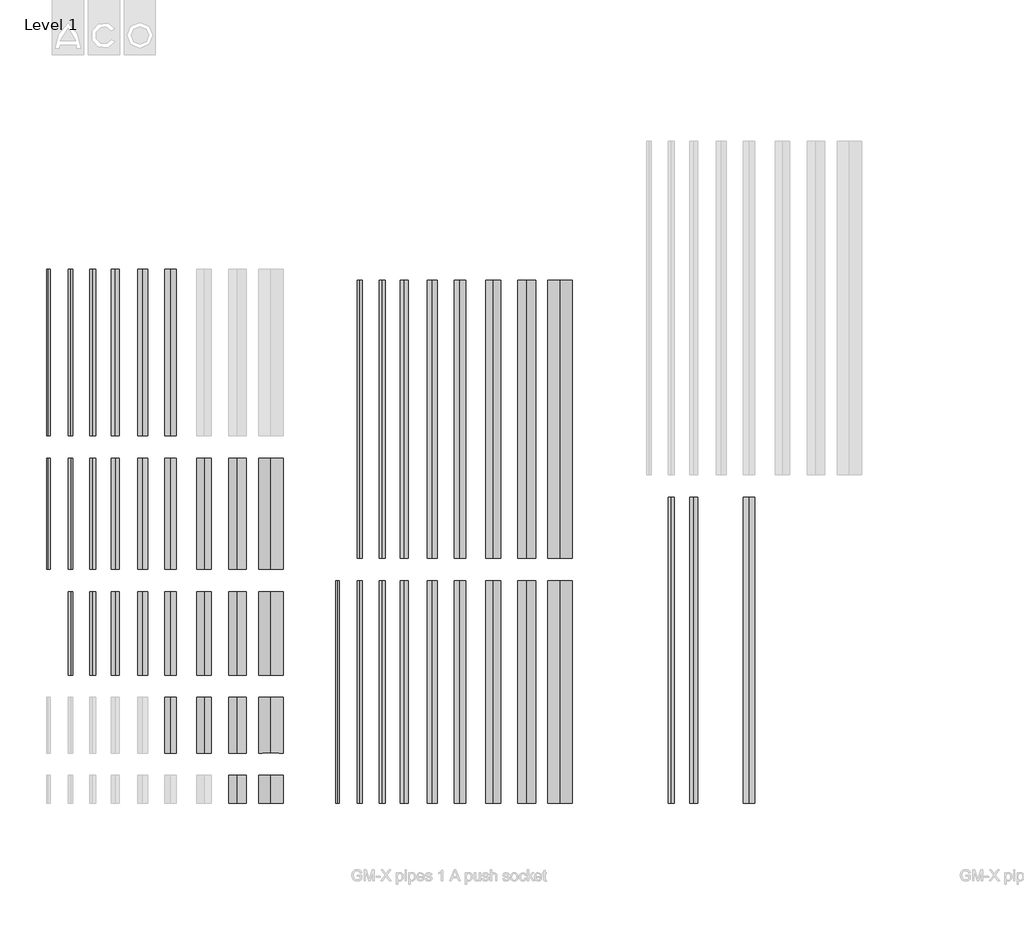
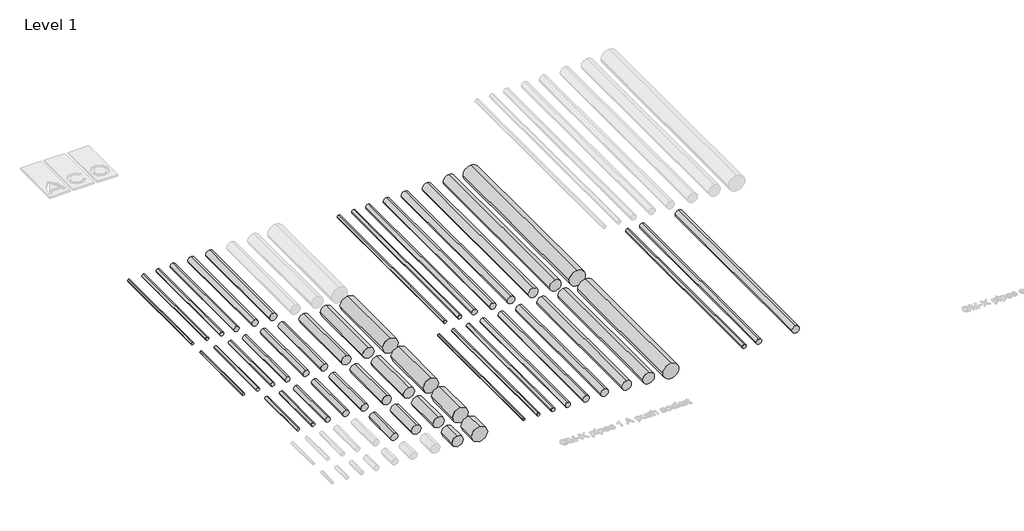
# One storey, part 4 of 8: 49 pipe segments.
"""IFC4 building model written with IfcOpenShell, lengths in millimetres."""

import ifcopenshell
import ifcopenshell.guid

model = None  # the IFC model being written
_history = None  # IfcOwnerHistory: only IFC2X3 demands one
_inside = {}  # id of a spatial element -> (the spatial element, [elements in it])
_under = {}  # id of a project, library or spatial element -> (it, [spatial elements below it])
_declared = {}  # id of a project -> (the project, [libraries it declares])
_typed = {}  # id of a type object -> (the type object, [elements of that type])
_made_of = {}  # id of a material, layer set ... -> (it, [elements and type objects made of it])


def new_model(schema):
    """Start an empty IFC model of exactly this schema.

    Asked for "IFC4X3", IfcOpenShell would pick the latest addendum, in which some entities
    have other attributes; the version numbers below select the first issue.
    IFC2X3 requires an IfcOwnerHistory on every rooted entity: one is made here for all.
    """
    global model, _history
    if schema == "IFC4X3":
        model = ifcopenshell.file(schema_version=(4, 3, 0, 0))
    else:
        model = ifcopenshell.file(schema=schema)
    _inside.clear()
    _under.clear()
    _declared.clear()
    _typed.clear()
    _made_of.clear()
    _history = None
    if model.schema == "IFC2X3":
        org = make("IfcOrganization", Name="unknown")
        user = make(
            "IfcPersonAndOrganization",
            ThePerson=make("IfcPerson", FamilyName="unknown"),
            TheOrganization=org,
        )
        app = make(
            "IfcApplication",
            ApplicationDeveloper=org,
            Version="unknown",
            ApplicationFullName="unknown",
            ApplicationIdentifier="unknown",
        )
        _history = make(
            "IfcOwnerHistory",
            OwningUser=user,
            OwningApplication=app,
            ChangeAction="ADDED",
            CreationDate=0,
        )
    return model


def make(cls, **values):
    """One entity of the class cls with the attributes given. An attribute that is None is left unset."""
    return model.create_entity(
        cls, **{name: value for name, value in values.items() if value is not None}
    )


def rooted(cls, **values):
    """An entity with a GlobalId (a new one), such as an element, a storey or a relation."""
    return make(cls, GlobalId=ifcopenshell.guid.new(), OwnerHistory=_history, **values)


def si_unit(unit_type, name, prefix=None):
    """IfcSIUnit, for example si_unit("LENGTHUNIT", "METRE", prefix="MILLI")."""
    return make("IfcSIUnit", UnitType=unit_type, Prefix=prefix, Name=name)


def assignment(units):
    """IfcUnitAssignment: the units of a project."""
    return None if units is None else make("IfcUnitAssignment", Units=units)


def point(xyz):
    """IfcCartesianPoint."""
    return None if xyz is None else make("IfcCartesianPoint", Coordinates=xyz)


def direction(xyz):
    """IfcDirection."""
    return None if xyz is None else make("IfcDirection", DirectionRatios=xyz)


def frame(location, z_axis=None, x_axis=None):
    """IfcAxis2Placement3D, a coordinate frame: its origin and axes. An axis left out is left unset."""
    return make(
        "IfcAxis2Placement3D",
        Location=point(location),
        Axis=direction(z_axis),
        RefDirection=direction(x_axis),
    )


def frame_2d(location, x_axis=None):
    """IfcAxis2Placement2D, a coordinate frame in the plane: its origin and x axis."""
    return make(
        "IfcAxis2Placement2D", Location=point(location), RefDirection=direction(x_axis)
    )


def origin():
    """The frame at (0, 0, 0) with its axes left unset."""
    return frame((0.0, 0.0, 0.0))


def place(relative_to, where):
    """IfcLocalPlacement: puts the frame where relative to a parent placement (None: the world)."""
    return make(
        "IfcLocalPlacement", PlacementRelTo=relative_to, RelativePlacement=where
    )


def context(
    kind, dimensions, precision=None, world=None, true_north=None, identifier=None
):
    """IfcGeometricRepresentationContext, for example the 3D "Model" context."""
    return make(
        "IfcGeometricRepresentationContext",
        ContextIdentifier=identifier,
        ContextType=kind,
        CoordinateSpaceDimension=dimensions,
        Precision=precision,
        WorldCoordinateSystem=world,
        TrueNorth=true_north,
    )


def project(units=None, contexts=None):
    """IfcProject with its units and contexts."""
    return rooted(
        "IfcProject",
        Name="project",
        RepresentationContexts=contexts,
        UnitsInContext=assignment(units),
    )


def spatial(cls, under=None, at=None, **own):
    """A site, building, storey or space (cls), placed at a placement, below another one or the project."""
    s = rooted(cls, ObjectPlacement=at, **own)
    if under is not None:
        _under.setdefault(under.id(), (under, []))[1].append(s)
    return s


def circle_curve(where, radius):
    """IfcCircle in the frame where."""
    return make("IfcCircle", Position=where, Radius=radius)


def trimmed(basis, trim1, trim2, sense, master):
    """IfcTrimmedCurve: the piece of a basis curve between two trims."""
    return make(
        "IfcTrimmedCurve",
        BasisCurve=basis,
        Trim1=trim1,
        Trim2=trim2,
        SenseAgreement=sense,
        MasterRepresentation=master,
    )


def segment(curve, same_sense, transition):
    """IfcCompositeCurveSegment."""
    return make(
        "IfcCompositeCurveSegment",
        Transition=transition,
        SameSense=same_sense,
        ParentCurve=curve,
    )


def composite_curve(segments, self_intersect=None):
    """IfcCompositeCurve: segments joined end to end."""
    return make("IfcCompositeCurve", Segments=segments, SelfIntersect=self_intersect)


def outline(outer, holes=None, kind="AREA"):
    """IfcArbitraryClosedProfileDef: a profile drawn as a closed curve; with holes, ...WithVoids."""
    if holes is None:
        return make("IfcArbitraryClosedProfileDef", ProfileType=kind, OuterCurve=outer)
    return make(
        "IfcArbitraryProfileDefWithVoids",
        ProfileType=kind,
        OuterCurve=outer,
        InnerCurves=holes,
    )


def extrude(swept, where, along, depth):
    """IfcExtrudedAreaSolid: the profile swept, set in the frame where, extruded along a direction by depth."""
    return make(
        "IfcExtrudedAreaSolid",
        SweptArea=swept,
        Position=where,
        ExtrudedDirection=direction(along),
        Depth=depth,
    )


def shape(context_of_items, identifier, shape_type, items):
    """IfcShapeRepresentation: the items that make up one representation, for example the "Body"."""
    return make(
        "IfcShapeRepresentation",
        ContextOfItems=context_of_items,
        RepresentationIdentifier=identifier,
        RepresentationType=shape_type,
        Items=items,
    )


def made_of(thing, what):
    """Note that an element or type object is made of a material, layer set ...; save() writes the relation."""
    if what is not None:
        _made_of.setdefault(what.id(), (what, []))[1].append(thing)
    return thing


def element(
    cls,
    number,
    at=None,
    inside=None,
    cuts=None,
    type_object=None,
    material=None,
    context=None,
    identifier="Body",
    shape_type=None,
    held_by="IfcProductDefinitionShape",
    body=None,
    shapes=None,
    **own,
):
    """One element of the class cls, such as IfcWall. Its Tag is "e" and its number.

    at: its placement. inside: the storey or other place that contains it. cuts: it is an
    opening in that element (IfcRelVoidsElement). A single representation is given by context,
    identifier, shape_type and body (its items); several are given by shapes. held_by: the class
    of the entity that holds the representations. save() writes the other relations.
    """
    e = rooted(cls, Tag="e%d" % number, ObjectPlacement=at, **own)
    if body is not None:
        shapes = [shape(context, identifier, shape_type, body)]
    if shapes is not None:
        e.Representation = make(held_by, Representations=shapes)
    if inside is not None:
        _inside.setdefault(inside.id(), (inside, []))[1].append(e)
    if cuts is not None:
        rooted(
            "IfcRelVoidsElement", RelatingBuildingElement=cuts, RelatedOpeningElement=e
        )
    if type_object is not None:
        _typed.setdefault(type_object.id(), (type_object, []))[1].append(e)
    return made_of(e, material)


def aggregate(whole, parts):
    """IfcRelAggregates: a whole, such as a stair, and the parts it consists of."""
    return rooted("IfcRelAggregates", RelatingObject=whole, RelatedObjects=parts)


def save(model, path):
    """Write the relations noted so far, then the file.

    IfcRelAggregates (storeys below a building ...), IfcRelContainedInSpatialStructure (elements
    in a storey), IfcRelDefinesByType, IfcRelAssociatesMaterial and IfcRelDeclares: one each for
    every whole, place, type object, material and project.
    """
    for whole, parts in _under.values():
        aggregate(whole, parts)
    for where, things in _inside.values():
        rooted(
            "IfcRelContainedInSpatialStructure",
            RelatedElements=things,
            RelatingStructure=where,
        )
    for kind, things in _typed.values():
        rooted("IfcRelDefinesByType", RelatedObjects=things, RelatingType=kind)
    for what, things in _made_of.values():
        rooted("IfcRelAssociatesMaterial", RelatedObjects=things, RelatingMaterial=what)
    for by, libraries in _declared.values():
        rooted("IfcRelDeclares", RelatingContext=by, RelatedDefinitions=libraries)
    model.write(path)


model = new_model("IFC4")

# Units and contexts
model_context = context("Model", 3, world=origin())
ifc_project = project(units=[si_unit("LENGTHUNIT", "METRE", prefix="MILLI")], contexts=[model_context])

# Site, building, storey
site = spatial("IfcSite", under=ifc_project)
building = spatial("IfcBuilding", under=site)
storey = spatial("IfcBuildingStorey", under=building, Name="Level 1", Elevation=0.0)

# Pipe segments
placement = place(None, origin())
element("IfcPipeSegment", 1, ObjectType="GM-X pipe complex", at=placement, inside=storey, context=model_context, shape_type="SweptSolid", body=[
    extrude(outline(composite_curve([segment(trimmed(circle_curve(frame_2d((0.0, 2200.0)), 79.5), [point((0.0, 2279.5))], [point((79.5, 2200.0))], False, "CARTESIAN"), True, "CONTINUOUS"), segment(trimmed(circle_curve(frame_2d((0.0, 2200.0)), 79.5), [point((79.5, 2200.0))], [point((0.0, 2120.5))], False, "CARTESIAN"), True, "CONTINUOUS"), segment(trimmed(circle_curve(frame_2d((0.0, 2200.0)), 79.5), [point((0.0, 2120.5))], [point((-79.5, 2200.0))], False, "CARTESIAN"), True, "CONTINUOUS"), segment(trimmed(circle_curve(frame_2d((0.0, 2200.0)), 79.5), [point((-79.5, 2200.0))], [point((0.0, 2279.5))], False, "CARTESIAN"), True, "CONTINUOUS")], self_intersect=False)), frame((0.0, 0.0, 0.0), z_axis=(0.0, 1.0, 0.0), x_axis=(0.0, 0.0, 1.0)), (0.0, 0.0, 1.0), 250.0),
])
element("IfcPipeSegment", 2, ObjectType="GM-X pipe complex", at=placement, inside=storey, context=model_context, shape_type="SweptSolid", body=[
    extrude(outline(composite_curve([segment(trimmed(circle_curve(frame_2d((0.0, 2500.0)), 109.5), [point((0.0, 2609.5))], [point((109.5, 2500.0))], False, "CARTESIAN"), True, "CONTINUOUS"), segment(trimmed(circle_curve(frame_2d((0.0, 2500.0)), 109.5), [point((109.5, 2500.0))], [point((0.0, 2390.5))], False, "CARTESIAN"), True, "CONTINUOUS"), segment(trimmed(circle_curve(frame_2d((0.0, 2500.0)), 109.5), [point((0.0, 2390.5))], [point((-109.5, 2500.0))], False, "CARTESIAN"), True, "CONTINUOUS"), segment(trimmed(circle_curve(frame_2d((0.0, 2500.0)), 109.5), [point((-109.5, 2500.0))], [point((0.0, 2609.5))], False, "CARTESIAN"), True, "CONTINUOUS")], self_intersect=False)), frame((0.0, 0.0, 0.0), z_axis=(0.0, 1.0, 0.0), x_axis=(0.0, 0.0, 1.0)), (0.0, 0.0, 1.0), 250.0),
])
element("IfcPipeSegment", 3, ObjectType="GM-X pipe complex", at=placement, inside=storey, context=model_context, shape_type="SweptSolid", body=[
    extrude(outline(composite_curve([segment(trimmed(circle_curve(frame_2d((0.0, 1600.0)), 51.5), [point((0.0, 1651.5))], [point((51.5, 1600.0))], False, "CARTESIAN"), True, "CONTINUOUS"), segment(trimmed(circle_curve(frame_2d((0.0, 1600.0)), 51.5), [point((51.5, 1600.0))], [point((0.0, 1548.5))], False, "CARTESIAN"), True, "CONTINUOUS"), segment(trimmed(circle_curve(frame_2d((0.0, 1600.0)), 51.5), [point((0.0, 1548.5))], [point((-51.5, 1600.0))], False, "CARTESIAN"), True, "CONTINUOUS"), segment(trimmed(circle_curve(frame_2d((0.0, 1600.0)), 51.5), [point((-51.5, 1600.0))], [point((0.0, 1651.5))], False, "CARTESIAN"), True, "CONTINUOUS")], self_intersect=False)), frame((0.0, 450.0, 0.0), z_axis=(0.0, 1.0, 0.0), x_axis=(0.0, 0.0, 1.0)), (0.0, 0.0, 1.0), 500.0),
])
element("IfcPipeSegment", 4, ObjectType="GM-X pipe complex", at=placement, inside=storey, context=model_context, shape_type="SweptSolid", body=[
    extrude(outline(composite_curve([segment(trimmed(circle_curve(frame_2d((0.0, 1900.0)), 66.5), [point((0.0, 1966.5))], [point((66.5, 1900.0))], False, "CARTESIAN"), True, "CONTINUOUS"), segment(trimmed(circle_curve(frame_2d((0.0, 1900.0)), 66.5), [point((66.5, 1900.0))], [point((0.0, 1833.5))], False, "CARTESIAN"), True, "CONTINUOUS"), segment(trimmed(circle_curve(frame_2d((0.0, 1900.0)), 66.5), [point((0.0, 1833.5))], [point((-66.5, 1900.0))], False, "CARTESIAN"), True, "CONTINUOUS"), segment(trimmed(circle_curve(frame_2d((0.0, 1900.0)), 66.5), [point((-66.5, 1900.0))], [point((0.0, 1966.5))], False, "CARTESIAN"), True, "CONTINUOUS")], self_intersect=False)), frame((0.0, 450.0, 0.0), z_axis=(0.0, 1.0, 0.0), x_axis=(0.0, 0.0, 1.0)), (0.0, 0.0, 1.0), 500.0),
])
element("IfcPipeSegment", 5, ObjectType="GM-X pipe complex", at=placement, inside=storey, context=model_context, shape_type="SweptSolid", body=[
    extrude(outline(composite_curve([segment(trimmed(circle_curve(frame_2d((0.0, 2200.0)), 79.5), [point((0.0, 2279.5))], [point((79.5, 2200.0))], False, "CARTESIAN"), True, "CONTINUOUS"), segment(trimmed(circle_curve(frame_2d((0.0, 2200.0)), 79.5), [point((79.5, 2200.0))], [point((0.0, 2120.5))], False, "CARTESIAN"), True, "CONTINUOUS"), segment(trimmed(circle_curve(frame_2d((0.0, 2200.0)), 79.5), [point((0.0, 2120.5))], [point((-79.5, 2200.0))], False, "CARTESIAN"), True, "CONTINUOUS"), segment(trimmed(circle_curve(frame_2d((0.0, 2200.0)), 79.5), [point((-79.5, 2200.0))], [point((0.0, 2279.5))], False, "CARTESIAN"), True, "CONTINUOUS")], self_intersect=False)), frame((0.0, 450.0, 0.0), z_axis=(0.0, 1.0, 0.0), x_axis=(0.0, 0.0, 1.0)), (0.0, 0.0, 1.0), 500.0),
])
element("IfcPipeSegment", 6, ObjectType="GM-X pipe complex", at=placement, inside=storey, context=model_context, shape_type="SweptSolid", body=[
    extrude(outline(composite_curve([segment(trimmed(circle_curve(frame_2d((0.0, 2500.0)), 109.5), [point((0.0, 2609.5))], [point((109.5, 2500.0))], False, "CARTESIAN"), True, "CONTINUOUS"), segment(trimmed(circle_curve(frame_2d((0.0, 2500.0)), 109.5), [point((109.5, 2500.0))], [point((0.0, 2390.5))], False, "CARTESIAN"), True, "CONTINUOUS"), segment(trimmed(circle_curve(frame_2d((0.0, 2500.0)), 109.5), [point((0.0, 2390.5))], [point((-109.5, 2500.0))], False, "CARTESIAN"), True, "CONTINUOUS"), segment(trimmed(circle_curve(frame_2d((0.0, 2500.0)), 109.5), [point((-109.5, 2500.0))], [point((0.0, 2609.5))], False, "CARTESIAN"), True, "CONTINUOUS")], self_intersect=False)), frame((0.0, 450.0, 0.0), z_axis=(0.0, 1.0, 0.0), x_axis=(0.0, 0.0, 1.0)), (0.0, 0.0, 1.0), 500.0),
])
element("IfcPipeSegment", 7, ObjectType="GM-X pipe complex", at=placement, inside=storey, context=model_context, shape_type="SweptSolid", body=[
    extrude(outline(composite_curve([segment(trimmed(circle_curve(frame_2d((0.0, 700.0)), 21.5), [point((0.0, 721.5))], [point((21.5, 700.0))], False, "CARTESIAN"), True, "CONTINUOUS"), segment(trimmed(circle_curve(frame_2d((0.0, 700.0)), 21.5), [point((21.5, 700.0))], [point((0.0, 678.5))], False, "CARTESIAN"), True, "CONTINUOUS"), segment(trimmed(circle_curve(frame_2d((0.0, 700.0)), 21.5), [point((0.0, 678.5))], [point((-21.5, 700.0))], False, "CARTESIAN"), True, "CONTINUOUS"), segment(trimmed(circle_curve(frame_2d((0.0, 700.0)), 21.5), [point((-21.5, 700.0))], [point((0.0, 721.5))], False, "CARTESIAN"), True, "CONTINUOUS")], self_intersect=False)), frame((0.0, 1150.0, 0.0), z_axis=(0.0, 1.0, 0.0), x_axis=(0.0, 0.0, 1.0)), (0.0, 0.0, 1.0), 750.0),
])
element("IfcPipeSegment", 8, ObjectType="GM-X pipe complex", at=placement, inside=storey, context=model_context, shape_type="SweptSolid", body=[
    extrude(outline(composite_curve([segment(trimmed(circle_curve(frame_2d((0.0, 900.0)), 26.5), [point((0.0, 926.5))], [point((26.5, 900.0))], False, "CARTESIAN"), True, "CONTINUOUS"), segment(trimmed(circle_curve(frame_2d((0.0, 900.0)), 26.5), [point((26.5, 900.0))], [point((0.0, 873.5))], False, "CARTESIAN"), True, "CONTINUOUS"), segment(trimmed(circle_curve(frame_2d((0.0, 900.0)), 26.5), [point((0.0, 873.5))], [point((-26.5, 900.0))], False, "CARTESIAN"), True, "CONTINUOUS"), segment(trimmed(circle_curve(frame_2d((0.0, 900.0)), 26.5), [point((-26.5, 900.0))], [point((0.0, 926.5))], False, "CARTESIAN"), True, "CONTINUOUS")], self_intersect=False)), frame((0.0, 1150.0, 0.0), z_axis=(0.0, 1.0, 0.0), x_axis=(0.0, 0.0, 1.0)), (0.0, 0.0, 1.0), 750.0),
])
element("IfcPipeSegment", 9, ObjectType="GM-X pipe complex", at=placement, inside=storey, context=model_context, shape_type="SweptSolid", body=[
    extrude(outline(composite_curve([segment(trimmed(circle_curve(frame_2d((0.0, 1100.0)), 36.5), [point((0.0, 1136.5))], [point((36.5, 1100.0))], False, "CARTESIAN"), True, "CONTINUOUS"), segment(trimmed(circle_curve(frame_2d((0.0, 1100.0)), 36.5), [point((36.5, 1100.0))], [point((0.0, 1063.5))], False, "CARTESIAN"), True, "CONTINUOUS"), segment(trimmed(circle_curve(frame_2d((0.0, 1100.0)), 36.5), [point((0.0, 1063.5))], [point((-36.5, 1100.0))], False, "CARTESIAN"), True, "CONTINUOUS"), segment(trimmed(circle_curve(frame_2d((0.0, 1100.0)), 36.5), [point((-36.5, 1100.0))], [point((0.0, 1136.5))], False, "CARTESIAN"), True, "CONTINUOUS")], self_intersect=False)), frame((0.0, 1150.0, 0.0), z_axis=(0.0, 1.0, 0.0), x_axis=(0.0, 0.0, 1.0)), (0.0, 0.0, 1.0), 750.0),
])
element("IfcPipeSegment", 10, ObjectType="GM-X pipe complex", at=placement, inside=storey, context=model_context, shape_type="SweptSolid", body=[
    extrude(outline(composite_curve([segment(trimmed(circle_curve(frame_2d((0.0, 1350.0)), 44.5), [point((0.0, 1394.5))], [point((44.5, 1350.0))], False, "CARTESIAN"), True, "CONTINUOUS"), segment(trimmed(circle_curve(frame_2d((0.0, 1350.0)), 44.5), [point((44.5, 1350.0))], [point((0.0, 1305.5))], False, "CARTESIAN"), True, "CONTINUOUS"), segment(trimmed(circle_curve(frame_2d((0.0, 1350.0)), 44.5), [point((0.0, 1305.5))], [point((-44.5, 1350.0))], False, "CARTESIAN"), True, "CONTINUOUS"), segment(trimmed(circle_curve(frame_2d((0.0, 1350.0)), 44.5), [point((-44.5, 1350.0))], [point((0.0, 1394.5))], False, "CARTESIAN"), True, "CONTINUOUS")], self_intersect=False)), frame((0.0, 1150.0, 0.0), z_axis=(0.0, 1.0, 0.0), x_axis=(0.0, 0.0, 1.0)), (0.0, 0.0, 1.0), 750.0),
])
element("IfcPipeSegment", 11, ObjectType="GM-X pipe complex", at=placement, inside=storey, context=model_context, shape_type="SweptSolid", body=[
    extrude(outline(composite_curve([segment(trimmed(circle_curve(frame_2d((0.0, 1600.0)), 51.5), [point((0.0, 1651.5))], [point((51.5, 1600.0))], False, "CARTESIAN"), True, "CONTINUOUS"), segment(trimmed(circle_curve(frame_2d((0.0, 1600.0)), 51.5), [point((51.5, 1600.0))], [point((0.0, 1548.5))], False, "CARTESIAN"), True, "CONTINUOUS"), segment(trimmed(circle_curve(frame_2d((0.0, 1600.0)), 51.5), [point((0.0, 1548.5))], [point((-51.5, 1600.0))], False, "CARTESIAN"), True, "CONTINUOUS"), segment(trimmed(circle_curve(frame_2d((0.0, 1600.0)), 51.5), [point((-51.5, 1600.0))], [point((0.0, 1651.5))], False, "CARTESIAN"), True, "CONTINUOUS")], self_intersect=False)), frame((0.0, 1150.0, 0.0), z_axis=(0.0, 1.0, 0.0), x_axis=(0.0, 0.0, 1.0)), (0.0, 0.0, 1.0), 750.0),
])
element("IfcPipeSegment", 12, ObjectType="GM-X pipe complex", at=placement, inside=storey, context=model_context, shape_type="SweptSolid", body=[
    extrude(outline(composite_curve([segment(trimmed(circle_curve(frame_2d((0.0, 1900.0)), 66.5), [point((0.0, 1966.5))], [point((66.5, 1900.0))], False, "CARTESIAN"), True, "CONTINUOUS"), segment(trimmed(circle_curve(frame_2d((0.0, 1900.0)), 66.5), [point((66.5, 1900.0))], [point((0.0, 1833.5))], False, "CARTESIAN"), True, "CONTINUOUS"), segment(trimmed(circle_curve(frame_2d((0.0, 1900.0)), 66.5), [point((0.0, 1833.5))], [point((-66.5, 1900.0))], False, "CARTESIAN"), True, "CONTINUOUS"), segment(trimmed(circle_curve(frame_2d((0.0, 1900.0)), 66.5), [point((-66.5, 1900.0))], [point((0.0, 1966.5))], False, "CARTESIAN"), True, "CONTINUOUS")], self_intersect=False)), frame((0.0, 1150.0, 0.0), z_axis=(0.0, 1.0, 0.0), x_axis=(0.0, 0.0, 1.0)), (0.0, 0.0, 1.0), 750.0),
])
element("IfcPipeSegment", 13, ObjectType="GM-X pipe complex", at=placement, inside=storey, context=model_context, shape_type="SweptSolid", body=[
    extrude(outline(composite_curve([segment(trimmed(circle_curve(frame_2d((0.0, 2200.0)), 79.5), [point((0.0, 2279.5))], [point((79.5, 2200.0))], False, "CARTESIAN"), True, "CONTINUOUS"), segment(trimmed(circle_curve(frame_2d((0.0, 2200.0)), 79.5), [point((79.5, 2200.0))], [point((0.0, 2120.5))], False, "CARTESIAN"), True, "CONTINUOUS"), segment(trimmed(circle_curve(frame_2d((0.0, 2200.0)), 79.5), [point((0.0, 2120.5))], [point((-79.5, 2200.0))], False, "CARTESIAN"), True, "CONTINUOUS"), segment(trimmed(circle_curve(frame_2d((0.0, 2200.0)), 79.5), [point((-79.5, 2200.0))], [point((0.0, 2279.5))], False, "CARTESIAN"), True, "CONTINUOUS")], self_intersect=False)), frame((0.0, 1150.0, 0.0), z_axis=(0.0, 1.0, 0.0), x_axis=(0.0, 0.0, 1.0)), (0.0, 0.0, 1.0), 750.0),
])
element("IfcPipeSegment", 14, ObjectType="GM-X pipe complex", at=placement, inside=storey, context=model_context, shape_type="SweptSolid", body=[
    extrude(outline(composite_curve([segment(trimmed(circle_curve(frame_2d((0.0, 2500.0)), 109.5), [point((0.0, 2609.5))], [point((109.5, 2500.0))], False, "CARTESIAN"), True, "CONTINUOUS"), segment(trimmed(circle_curve(frame_2d((0.0, 2500.0)), 109.5), [point((109.5, 2500.0))], [point((0.0, 2390.5))], False, "CARTESIAN"), True, "CONTINUOUS"), segment(trimmed(circle_curve(frame_2d((0.0, 2500.0)), 109.5), [point((0.0, 2390.5))], [point((-109.5, 2500.0))], False, "CARTESIAN"), True, "CONTINUOUS"), segment(trimmed(circle_curve(frame_2d((0.0, 2500.0)), 109.5), [point((-109.5, 2500.0))], [point((0.0, 2609.5))], False, "CARTESIAN"), True, "CONTINUOUS")], self_intersect=False)), frame((0.0, 1150.0, 0.0), z_axis=(0.0, 1.0, 0.0), x_axis=(0.0, 0.0, 1.0)), (0.0, 0.0, 1.0), 750.0),
])
element("IfcPipeSegment", 15, ObjectType="GM-X pipe complex", at=placement, inside=storey, context=model_context, shape_type="SweptSolid", body=[
    extrude(outline(composite_curve([segment(trimmed(circle_curve(frame_2d((0.0, 700.0)), 21.5), [point((0.0, 721.5))], [point((21.5, 700.0))], False, "CARTESIAN"), True, "CONTINUOUS"), segment(trimmed(circle_curve(frame_2d((0.0, 700.0)), 21.5), [point((21.5, 700.0))], [point((0.0, 678.5))], False, "CARTESIAN"), True, "CONTINUOUS"), segment(trimmed(circle_curve(frame_2d((0.0, 700.0)), 21.5), [point((0.0, 678.5))], [point((-21.5, 700.0))], False, "CARTESIAN"), True, "CONTINUOUS"), segment(trimmed(circle_curve(frame_2d((0.0, 700.0)), 21.5), [point((-21.5, 700.0))], [point((0.0, 721.5))], False, "CARTESIAN"), True, "CONTINUOUS")], self_intersect=False)), frame((0.0, 2100.0, 0.0), z_axis=(0.0, 1.0, 0.0), x_axis=(0.0, 0.0, 1.0)), (0.0, 0.0, 1.0), 1000.0),
])
element("IfcPipeSegment", 16, ObjectType="GM-X pipe complex", at=placement, inside=storey, context=model_context, shape_type="SweptSolid", body=[
    extrude(outline(composite_curve([segment(trimmed(circle_curve(frame_2d((0.0, 900.0)), 26.5), [point((0.0, 926.5))], [point((26.5, 900.0))], False, "CARTESIAN"), True, "CONTINUOUS"), segment(trimmed(circle_curve(frame_2d((0.0, 900.0)), 26.5), [point((26.5, 900.0))], [point((0.0, 873.5))], False, "CARTESIAN"), True, "CONTINUOUS"), segment(trimmed(circle_curve(frame_2d((0.0, 900.0)), 26.5), [point((0.0, 873.5))], [point((-26.5, 900.0))], False, "CARTESIAN"), True, "CONTINUOUS"), segment(trimmed(circle_curve(frame_2d((0.0, 900.0)), 26.5), [point((-26.5, 900.0))], [point((0.0, 926.5))], False, "CARTESIAN"), True, "CONTINUOUS")], self_intersect=False)), frame((0.0, 2100.0, 0.0), z_axis=(0.0, 1.0, 0.0), x_axis=(0.0, 0.0, 1.0)), (0.0, 0.0, 1.0), 1000.0),
])
element("IfcPipeSegment", 17, ObjectType="GM-X pipe complex", at=placement, inside=storey, context=model_context, shape_type="SweptSolid", body=[
    extrude(outline(composite_curve([segment(trimmed(circle_curve(frame_2d((0.0, 1100.0)), 36.5), [point((0.0, 1136.5))], [point((36.5, 1100.0))], False, "CARTESIAN"), True, "CONTINUOUS"), segment(trimmed(circle_curve(frame_2d((0.0, 1100.0)), 36.5), [point((36.5, 1100.0))], [point((0.0, 1063.5))], False, "CARTESIAN"), True, "CONTINUOUS"), segment(trimmed(circle_curve(frame_2d((0.0, 1100.0)), 36.5), [point((0.0, 1063.5))], [point((-36.5, 1100.0))], False, "CARTESIAN"), True, "CONTINUOUS"), segment(trimmed(circle_curve(frame_2d((0.0, 1100.0)), 36.5), [point((-36.5, 1100.0))], [point((0.0, 1136.5))], False, "CARTESIAN"), True, "CONTINUOUS")], self_intersect=False)), frame((0.0, 2100.0, 0.0), z_axis=(0.0, 1.0, 0.0), x_axis=(0.0, 0.0, 1.0)), (0.0, 0.0, 1.0), 1000.0),
])
element("IfcPipeSegment", 18, ObjectType="GM-X pipe complex", at=placement, inside=storey, context=model_context, shape_type="SweptSolid", body=[
    extrude(outline(composite_curve([segment(trimmed(circle_curve(frame_2d((0.0, 1350.0)), 44.5), [point((0.0, 1394.5))], [point((44.5, 1350.0))], False, "CARTESIAN"), True, "CONTINUOUS"), segment(trimmed(circle_curve(frame_2d((0.0, 1350.0)), 44.5), [point((44.5, 1350.0))], [point((0.0, 1305.5))], False, "CARTESIAN"), True, "CONTINUOUS"), segment(trimmed(circle_curve(frame_2d((0.0, 1350.0)), 44.5), [point((0.0, 1305.5))], [point((-44.5, 1350.0))], False, "CARTESIAN"), True, "CONTINUOUS"), segment(trimmed(circle_curve(frame_2d((0.0, 1350.0)), 44.5), [point((-44.5, 1350.0))], [point((0.0, 1394.5))], False, "CARTESIAN"), True, "CONTINUOUS")], self_intersect=False)), frame((0.0, 2100.0, 0.0), z_axis=(0.0, 1.0, 0.0), x_axis=(0.0, 0.0, 1.0)), (0.0, 0.0, 1.0), 1000.0),
])
element("IfcPipeSegment", 19, ObjectType="GM-X pipe complex", at=placement, inside=storey, context=model_context, shape_type="SweptSolid", body=[
    extrude(outline(composite_curve([segment(trimmed(circle_curve(frame_2d((0.0, 1600.0)), 51.5), [point((0.0, 1651.5))], [point((51.5, 1600.0))], False, "CARTESIAN"), True, "CONTINUOUS"), segment(trimmed(circle_curve(frame_2d((0.0, 1600.0)), 51.5), [point((51.5, 1600.0))], [point((0.0, 1548.5))], False, "CARTESIAN"), True, "CONTINUOUS"), segment(trimmed(circle_curve(frame_2d((0.0, 1600.0)), 51.5), [point((0.0, 1548.5))], [point((-51.5, 1600.0))], False, "CARTESIAN"), True, "CONTINUOUS"), segment(trimmed(circle_curve(frame_2d((0.0, 1600.0)), 51.5), [point((-51.5, 1600.0))], [point((0.0, 1651.5))], False, "CARTESIAN"), True, "CONTINUOUS")], self_intersect=False)), frame((0.0, 2100.0, 0.0), z_axis=(0.0, 1.0, 0.0), x_axis=(0.0, 0.0, 1.0)), (0.0, 0.0, 1.0), 1000.0),
])
element("IfcPipeSegment", 20, ObjectType="GM-X pipe complex", at=placement, inside=storey, context=model_context, shape_type="SweptSolid", body=[
    extrude(outline(composite_curve([segment(trimmed(circle_curve(frame_2d((0.0, 1900.0)), 66.5), [point((0.0, 1966.5))], [point((66.5, 1900.0))], False, "CARTESIAN"), True, "CONTINUOUS"), segment(trimmed(circle_curve(frame_2d((0.0, 1900.0)), 66.5), [point((66.5, 1900.0))], [point((0.0, 1833.5))], False, "CARTESIAN"), True, "CONTINUOUS"), segment(trimmed(circle_curve(frame_2d((0.0, 1900.0)), 66.5), [point((0.0, 1833.5))], [point((-66.5, 1900.0))], False, "CARTESIAN"), True, "CONTINUOUS"), segment(trimmed(circle_curve(frame_2d((0.0, 1900.0)), 66.5), [point((-66.5, 1900.0))], [point((0.0, 1966.5))], False, "CARTESIAN"), True, "CONTINUOUS")], self_intersect=False)), frame((0.0, 2100.0, 0.0), z_axis=(0.0, 1.0, 0.0), x_axis=(0.0, 0.0, 1.0)), (0.0, 0.0, 1.0), 1000.0),
])
element("IfcPipeSegment", 21, ObjectType="GM-X pipe complex", at=placement, inside=storey, context=model_context, shape_type="SweptSolid", body=[
    extrude(outline(composite_curve([segment(trimmed(circle_curve(frame_2d((0.0, 2200.0)), 79.5), [point((0.0, 2279.5))], [point((79.5, 2200.0))], False, "CARTESIAN"), True, "CONTINUOUS"), segment(trimmed(circle_curve(frame_2d((0.0, 2200.0)), 79.5), [point((79.5, 2200.0))], [point((0.0, 2120.5))], False, "CARTESIAN"), True, "CONTINUOUS"), segment(trimmed(circle_curve(frame_2d((0.0, 2200.0)), 79.5), [point((0.0, 2120.5))], [point((-79.5, 2200.0))], False, "CARTESIAN"), True, "CONTINUOUS"), segment(trimmed(circle_curve(frame_2d((0.0, 2200.0)), 79.5), [point((-79.5, 2200.0))], [point((0.0, 2279.5))], False, "CARTESIAN"), True, "CONTINUOUS")], self_intersect=False)), frame((0.0, 2100.0, 0.0), z_axis=(0.0, 1.0, 0.0), x_axis=(0.0, 0.0, 1.0)), (0.0, 0.0, 1.0), 1000.0),
])
element("IfcPipeSegment", 22, ObjectType="GM-X pipe complex", at=placement, inside=storey, context=model_context, shape_type="SweptSolid", body=[
    extrude(outline(composite_curve([segment(trimmed(circle_curve(frame_2d((0.0, 2500.0)), 109.5), [point((0.0, 2609.5))], [point((109.5, 2500.0))], False, "CARTESIAN"), True, "CONTINUOUS"), segment(trimmed(circle_curve(frame_2d((0.0, 2500.0)), 109.5), [point((109.5, 2500.0))], [point((0.0, 2390.5))], False, "CARTESIAN"), True, "CONTINUOUS"), segment(trimmed(circle_curve(frame_2d((0.0, 2500.0)), 109.5), [point((0.0, 2390.5))], [point((-109.5, 2500.0))], False, "CARTESIAN"), True, "CONTINUOUS"), segment(trimmed(circle_curve(frame_2d((0.0, 2500.0)), 109.5), [point((-109.5, 2500.0))], [point((0.0, 2609.5))], False, "CARTESIAN"), True, "CONTINUOUS")], self_intersect=False)), frame((0.0, 2100.0, 0.0), z_axis=(0.0, 1.0, 0.0), x_axis=(0.0, 0.0, 1.0)), (0.0, 0.0, 1.0), 1000.0),
])
element("IfcPipeSegment", 23, ObjectType="GM-X pipe complex", at=placement, inside=storey, context=model_context, shape_type="SweptSolid", body=[
    extrude(outline(composite_curve([segment(trimmed(circle_curve(frame_2d((0.0, 500.0)), 16.0), [point((0.0, 516.0))], [point((16.0, 500.0))], False, "CARTESIAN"), True, "CONTINUOUS"), segment(trimmed(circle_curve(frame_2d((0.0, 500.0)), 16.0), [point((16.0, 500.0))], [point((0.0, 484.0))], False, "CARTESIAN"), True, "CONTINUOUS"), segment(trimmed(circle_curve(frame_2d((0.0, 500.0)), 16.0), [point((0.0, 484.0))], [point((-16.0, 500.0))], False, "CARTESIAN"), True, "CONTINUOUS"), segment(trimmed(circle_curve(frame_2d((0.0, 500.0)), 16.0), [point((-16.0, 500.0))], [point((0.0, 516.0))], False, "CARTESIAN"), True, "CONTINUOUS")], self_intersect=False)), frame((0.0, 2100.0, 0.0), z_axis=(0.0, 1.0, 0.0), x_axis=(0.0, 0.0, 1.0)), (0.0, 0.0, 1.0), 1000.0),
])
element("IfcPipeSegment", 24, ObjectType="GM-X pipe complex", at=placement, inside=storey, context=model_context, shape_type="SweptSolid", body=[
    extrude(outline(composite_curve([segment(trimmed(circle_curve(frame_2d((0.0, 700.0)), 21.5), [point((0.0, 721.5))], [point((21.5, 700.0))], False, "CARTESIAN"), True, "CONTINUOUS"), segment(trimmed(circle_curve(frame_2d((0.0, 700.0)), 21.5), [point((21.5, 700.0))], [point((0.0, 678.5))], False, "CARTESIAN"), True, "CONTINUOUS"), segment(trimmed(circle_curve(frame_2d((0.0, 700.0)), 21.5), [point((0.0, 678.5))], [point((-21.5, 700.0))], False, "CARTESIAN"), True, "CONTINUOUS"), segment(trimmed(circle_curve(frame_2d((0.0, 700.0)), 21.5), [point((-21.5, 700.0))], [point((0.0, 721.5))], False, "CARTESIAN"), True, "CONTINUOUS")], self_intersect=False)), frame((0.0, 3300.0, 0.0), z_axis=(0.0, 1.0, 0.0), x_axis=(0.0, 0.0, 1.0)), (0.0, 0.0, 1.0), 1500.0),
])
element("IfcPipeSegment", 25, ObjectType="GM-X pipe complex", at=placement, inside=storey, context=model_context, shape_type="SweptSolid", body=[
    extrude(outline(composite_curve([segment(trimmed(circle_curve(frame_2d((0.0, 900.0)), 26.5), [point((0.0, 926.5))], [point((26.5, 900.0))], False, "CARTESIAN"), True, "CONTINUOUS"), segment(trimmed(circle_curve(frame_2d((0.0, 900.0)), 26.5), [point((26.5, 900.0))], [point((0.0, 873.5))], False, "CARTESIAN"), True, "CONTINUOUS"), segment(trimmed(circle_curve(frame_2d((0.0, 900.0)), 26.5), [point((0.0, 873.5))], [point((-26.5, 900.0))], False, "CARTESIAN"), True, "CONTINUOUS"), segment(trimmed(circle_curve(frame_2d((0.0, 900.0)), 26.5), [point((-26.5, 900.0))], [point((0.0, 926.5))], False, "CARTESIAN"), True, "CONTINUOUS")], self_intersect=False)), frame((0.0, 3300.0, 0.0), z_axis=(0.0, 1.0, 0.0), x_axis=(0.0, 0.0, 1.0)), (0.0, 0.0, 1.0), 1500.0),
])
element("IfcPipeSegment", 26, ObjectType="GM-X pipe complex", at=placement, inside=storey, context=model_context, shape_type="SweptSolid", body=[
    extrude(outline(composite_curve([segment(trimmed(circle_curve(frame_2d((0.0, 1100.0)), 36.5), [point((0.0, 1136.5))], [point((36.5, 1100.0))], False, "CARTESIAN"), True, "CONTINUOUS"), segment(trimmed(circle_curve(frame_2d((0.0, 1100.0)), 36.5), [point((36.5, 1100.0))], [point((0.0, 1063.5))], False, "CARTESIAN"), True, "CONTINUOUS"), segment(trimmed(circle_curve(frame_2d((0.0, 1100.0)), 36.5), [point((0.0, 1063.5))], [point((-36.5, 1100.0))], False, "CARTESIAN"), True, "CONTINUOUS"), segment(trimmed(circle_curve(frame_2d((0.0, 1100.0)), 36.5), [point((-36.5, 1100.0))], [point((0.0, 1136.5))], False, "CARTESIAN"), True, "CONTINUOUS")], self_intersect=False)), frame((0.0, 3300.0, 0.0), z_axis=(0.0, 1.0, 0.0), x_axis=(0.0, 0.0, 1.0)), (0.0, 0.0, 1.0), 1500.0),
])
element("IfcPipeSegment", 27, ObjectType="GM-X pipe complex", at=placement, inside=storey, context=model_context, shape_type="SweptSolid", body=[
    extrude(outline(composite_curve([segment(trimmed(circle_curve(frame_2d((0.0, 1350.0)), 44.5), [point((0.0, 1394.5))], [point((44.5, 1350.0))], False, "CARTESIAN"), True, "CONTINUOUS"), segment(trimmed(circle_curve(frame_2d((0.0, 1350.0)), 44.5), [point((44.5, 1350.0))], [point((0.0, 1305.5))], False, "CARTESIAN"), True, "CONTINUOUS"), segment(trimmed(circle_curve(frame_2d((0.0, 1350.0)), 44.5), [point((0.0, 1305.5))], [point((-44.5, 1350.0))], False, "CARTESIAN"), True, "CONTINUOUS"), segment(trimmed(circle_curve(frame_2d((0.0, 1350.0)), 44.5), [point((-44.5, 1350.0))], [point((0.0, 1394.5))], False, "CARTESIAN"), True, "CONTINUOUS")], self_intersect=False)), frame((0.0, 3300.0, 0.0), z_axis=(0.0, 1.0, 0.0), x_axis=(0.0, 0.0, 1.0)), (0.0, 0.0, 1.0), 1500.0),
])
element("IfcPipeSegment", 28, ObjectType="GM-X pipe complex", at=placement, inside=storey, context=model_context, shape_type="SweptSolid", body=[
    extrude(outline(composite_curve([segment(trimmed(circle_curve(frame_2d((0.0, 1600.0)), 51.5), [point((0.0, 1651.5))], [point((51.5, 1600.0))], False, "CARTESIAN"), True, "CONTINUOUS"), segment(trimmed(circle_curve(frame_2d((0.0, 1600.0)), 51.5), [point((51.5, 1600.0))], [point((0.0, 1548.5))], False, "CARTESIAN"), True, "CONTINUOUS"), segment(trimmed(circle_curve(frame_2d((0.0, 1600.0)), 51.5), [point((0.0, 1548.5))], [point((-51.5, 1600.0))], False, "CARTESIAN"), True, "CONTINUOUS"), segment(trimmed(circle_curve(frame_2d((0.0, 1600.0)), 51.5), [point((-51.5, 1600.0))], [point((0.0, 1651.5))], False, "CARTESIAN"), True, "CONTINUOUS")], self_intersect=False)), frame((0.0, 3300.0, 0.0), z_axis=(0.0, 1.0, 0.0), x_axis=(0.0, 0.0, 1.0)), (0.0, 0.0, 1.0), 1500.0),
])
element("IfcPipeSegment", 29, ObjectType="GM-X pipe complex", at=placement, inside=storey, context=model_context, shape_type="SweptSolid", body=[
    extrude(outline(composite_curve([segment(trimmed(circle_curve(frame_2d((0.0, 500.0)), 16.0), [point((0.0, 516.0))], [point((16.0, 500.0))], False, "CARTESIAN"), True, "CONTINUOUS"), segment(trimmed(circle_curve(frame_2d((0.0, 500.0)), 16.0), [point((16.0, 500.0))], [point((0.0, 484.0))], False, "CARTESIAN"), True, "CONTINUOUS"), segment(trimmed(circle_curve(frame_2d((0.0, 500.0)), 16.0), [point((0.0, 484.0))], [point((-16.0, 500.0))], False, "CARTESIAN"), True, "CONTINUOUS"), segment(trimmed(circle_curve(frame_2d((0.0, 500.0)), 16.0), [point((-16.0, 500.0))], [point((0.0, 516.0))], False, "CARTESIAN"), True, "CONTINUOUS")], self_intersect=False)), frame((0.0, 3300.0, 0.0), z_axis=(0.0, 1.0, 0.0), x_axis=(0.0, 0.0, 1.0)), (0.0, 0.0, 1.0), 1500.0),
])
element("IfcPipeSegment", 30, ObjectType="GM-X pipe complex", at=placement, inside=storey, context=model_context, shape_type="SweptSolid", body=[
    extrude(outline(composite_curve([segment(trimmed(circle_curve(frame_2d((0.0, 3100.0)), 16.0), [point((0.0, 3116.0))], [point((16.0, 3100.0))], False, "CARTESIAN"), True, "CONTINUOUS"), segment(trimmed(circle_curve(frame_2d((0.0, 3100.0)), 16.0), [point((16.0, 3100.0))], [point((0.0, 3084.0))], False, "CARTESIAN"), True, "CONTINUOUS"), segment(trimmed(circle_curve(frame_2d((0.0, 3100.0)), 16.0), [point((0.0, 3084.0))], [point((-16.0, 3100.0))], False, "CARTESIAN"), True, "CONTINUOUS"), segment(trimmed(circle_curve(frame_2d((0.0, 3100.0)), 16.0), [point((-16.0, 3100.0))], [point((0.0, 3116.0))], False, "CARTESIAN"), True, "CONTINUOUS")], self_intersect=False)), frame((0.0, 0.0, 0.0), z_axis=(0.0, 1.0, 0.0), x_axis=(0.0, 0.0, 1.0)), (0.0, 0.0, 1.0), 2000.0),
])
element("IfcPipeSegment", 31, ObjectType="GM-X pipe complex", at=placement, inside=storey, context=model_context, shape_type="SweptSolid", body=[
    extrude(outline(composite_curve([segment(trimmed(circle_curve(frame_2d((0.0, 3300.0)), 21.5), [point((0.0, 3321.5))], [point((21.5, 3300.0))], False, "CARTESIAN"), True, "CONTINUOUS"), segment(trimmed(circle_curve(frame_2d((0.0, 3300.0)), 21.5), [point((21.5, 3300.0))], [point((0.0, 3278.5))], False, "CARTESIAN"), True, "CONTINUOUS"), segment(trimmed(circle_curve(frame_2d((0.0, 3300.0)), 21.5), [point((0.0, 3278.5))], [point((-21.5, 3300.0))], False, "CARTESIAN"), True, "CONTINUOUS"), segment(trimmed(circle_curve(frame_2d((0.0, 3300.0)), 21.5), [point((-21.5, 3300.0))], [point((0.0, 3321.5))], False, "CARTESIAN"), True, "CONTINUOUS")], self_intersect=False)), frame((0.0, 0.0, 0.0), z_axis=(0.0, 1.0, 0.0), x_axis=(0.0, 0.0, 1.0)), (0.0, 0.0, 1.0), 2000.0),
])
element("IfcPipeSegment", 32, ObjectType="GM-X pipe complex", at=placement, inside=storey, context=model_context, shape_type="SweptSolid", body=[
    extrude(outline(composite_curve([segment(trimmed(circle_curve(frame_2d((0.0, 3500.0)), 26.5), [point((0.0, 3526.5))], [point((26.5, 3500.0))], False, "CARTESIAN"), True, "CONTINUOUS"), segment(trimmed(circle_curve(frame_2d((0.0, 3500.0)), 26.5), [point((26.5, 3500.0))], [point((0.0, 3473.5))], False, "CARTESIAN"), True, "CONTINUOUS"), segment(trimmed(circle_curve(frame_2d((0.0, 3500.0)), 26.5), [point((0.0, 3473.5))], [point((-26.5, 3500.0))], False, "CARTESIAN"), True, "CONTINUOUS"), segment(trimmed(circle_curve(frame_2d((0.0, 3500.0)), 26.5), [point((-26.5, 3500.0))], [point((0.0, 3526.5))], False, "CARTESIAN"), True, "CONTINUOUS")], self_intersect=False)), frame((0.0, 0.0, 0.0), z_axis=(0.0, 1.0, 0.0), x_axis=(0.0, 0.0, 1.0)), (0.0, 0.0, 1.0), 2000.0),
])
element("IfcPipeSegment", 33, ObjectType="GM-X pipe complex", at=placement, inside=storey, context=model_context, shape_type="SweptSolid", body=[
    extrude(outline(composite_curve([segment(trimmed(circle_curve(frame_2d((0.0, 3700.0)), 36.5), [point((0.0, 3736.5))], [point((36.5, 3700.0))], False, "CARTESIAN"), True, "CONTINUOUS"), segment(trimmed(circle_curve(frame_2d((0.0, 3700.0)), 36.5), [point((36.5, 3700.0))], [point((0.0, 3663.5))], False, "CARTESIAN"), True, "CONTINUOUS"), segment(trimmed(circle_curve(frame_2d((0.0, 3700.0)), 36.5), [point((0.0, 3663.5))], [point((-36.5, 3700.0))], False, "CARTESIAN"), True, "CONTINUOUS"), segment(trimmed(circle_curve(frame_2d((0.0, 3700.0)), 36.5), [point((-36.5, 3700.0))], [point((0.0, 3736.5))], False, "CARTESIAN"), True, "CONTINUOUS")], self_intersect=False)), frame((0.0, 0.0, 0.0), z_axis=(0.0, 1.0, 0.0), x_axis=(0.0, 0.0, 1.0)), (0.0, 0.0, 1.0), 2000.0),
])
element("IfcPipeSegment", 34, ObjectType="GM-X pipe complex", at=placement, inside=storey, context=model_context, shape_type="SweptSolid", body=[
    extrude(outline(composite_curve([segment(trimmed(circle_curve(frame_2d((0.0, 3950.0)), 44.5), [point((0.0, 3994.5))], [point((44.5, 3950.0))], False, "CARTESIAN"), True, "CONTINUOUS"), segment(trimmed(circle_curve(frame_2d((0.0, 3950.0)), 44.5), [point((44.5, 3950.0))], [point((0.0, 3905.5))], False, "CARTESIAN"), True, "CONTINUOUS"), segment(trimmed(circle_curve(frame_2d((0.0, 3950.0)), 44.5), [point((0.0, 3905.5))], [point((-44.5, 3950.0))], False, "CARTESIAN"), True, "CONTINUOUS"), segment(trimmed(circle_curve(frame_2d((0.0, 3950.0)), 44.5), [point((-44.5, 3950.0))], [point((0.0, 3994.5))], False, "CARTESIAN"), True, "CONTINUOUS")], self_intersect=False)), frame((0.0, 0.0, 0.0), z_axis=(0.0, 1.0, 0.0), x_axis=(0.0, 0.0, 1.0)), (0.0, 0.0, 1.0), 2000.0),
])
element("IfcPipeSegment", 35, ObjectType="GM-X pipe complex", at=placement, inside=storey, context=model_context, shape_type="SweptSolid", body=[
    extrude(outline(composite_curve([segment(trimmed(circle_curve(frame_2d((0.0, 4200.0)), 51.5), [point((0.0, 4251.5))], [point((51.5, 4200.0))], False, "CARTESIAN"), True, "CONTINUOUS"), segment(trimmed(circle_curve(frame_2d((0.0, 4200.0)), 51.5), [point((51.5, 4200.0))], [point((0.0, 4148.5))], False, "CARTESIAN"), True, "CONTINUOUS"), segment(trimmed(circle_curve(frame_2d((0.0, 4200.0)), 51.5), [point((0.0, 4148.5))], [point((-51.5, 4200.0))], False, "CARTESIAN"), True, "CONTINUOUS"), segment(trimmed(circle_curve(frame_2d((0.0, 4200.0)), 51.5), [point((-51.5, 4200.0))], [point((0.0, 4251.5))], False, "CARTESIAN"), True, "CONTINUOUS")], self_intersect=False)), frame((0.0, 0.0, 0.0), z_axis=(0.0, 1.0, 0.0), x_axis=(0.0, 0.0, 1.0)), (0.0, 0.0, 1.0), 2000.0),
])
element("IfcPipeSegment", 36, ObjectType="GM-X pipe complex", at=placement, inside=storey, context=model_context, shape_type="SweptSolid", body=[
    extrude(outline(composite_curve([segment(trimmed(circle_curve(frame_2d((0.0, 4500.0)), 66.5), [point((0.0, 4566.5))], [point((66.5, 4500.0))], False, "CARTESIAN"), True, "CONTINUOUS"), segment(trimmed(circle_curve(frame_2d((0.0, 4500.0)), 66.5), [point((66.5, 4500.0))], [point((0.0, 4433.5))], False, "CARTESIAN"), True, "CONTINUOUS"), segment(trimmed(circle_curve(frame_2d((0.0, 4500.0)), 66.5), [point((0.0, 4433.5))], [point((-66.5, 4500.0))], False, "CARTESIAN"), True, "CONTINUOUS"), segment(trimmed(circle_curve(frame_2d((0.0, 4500.0)), 66.5), [point((-66.5, 4500.0))], [point((0.0, 4566.5))], False, "CARTESIAN"), True, "CONTINUOUS")], self_intersect=False)), frame((0.0, 0.0, 0.0), z_axis=(0.0, 1.0, 0.0), x_axis=(0.0, 0.0, 1.0)), (0.0, 0.0, 1.0), 2000.0),
])
element("IfcPipeSegment", 37, ObjectType="GM-X pipe complex", at=placement, inside=storey, context=model_context, shape_type="SweptSolid", body=[
    extrude(outline(composite_curve([segment(trimmed(circle_curve(frame_2d((0.0, 4800.0)), 79.5), [point((0.0, 4879.5))], [point((79.5, 4800.0))], False, "CARTESIAN"), True, "CONTINUOUS"), segment(trimmed(circle_curve(frame_2d((0.0, 4800.0)), 79.5), [point((79.5, 4800.0))], [point((0.0, 4720.5))], False, "CARTESIAN"), True, "CONTINUOUS"), segment(trimmed(circle_curve(frame_2d((0.0, 4800.0)), 79.5), [point((0.0, 4720.5))], [point((-79.5, 4800.0))], False, "CARTESIAN"), True, "CONTINUOUS"), segment(trimmed(circle_curve(frame_2d((0.0, 4800.0)), 79.5), [point((-79.5, 4800.0))], [point((0.0, 4879.5))], False, "CARTESIAN"), True, "CONTINUOUS")], self_intersect=False)), frame((0.0, 0.0, 0.0), z_axis=(0.0, 1.0, 0.0), x_axis=(0.0, 0.0, 1.0)), (0.0, 0.0, 1.0), 2000.0),
])
element("IfcPipeSegment", 38, ObjectType="GM-X pipe complex", at=placement, inside=storey, context=model_context, shape_type="SweptSolid", body=[
    extrude(outline(composite_curve([segment(trimmed(circle_curve(frame_2d((0.0, 5100.0)), 109.5), [point((0.0, 5209.5))], [point((109.5, 5100.0))], False, "CARTESIAN"), True, "CONTINUOUS"), segment(trimmed(circle_curve(frame_2d((0.0, 5100.0)), 109.5), [point((109.5, 5100.0))], [point((0.0, 4990.5))], False, "CARTESIAN"), True, "CONTINUOUS"), segment(trimmed(circle_curve(frame_2d((0.0, 5100.0)), 109.5), [point((0.0, 4990.5))], [point((-109.5, 5100.0))], False, "CARTESIAN"), True, "CONTINUOUS"), segment(trimmed(circle_curve(frame_2d((0.0, 5100.0)), 109.5), [point((-109.5, 5100.0))], [point((0.0, 5209.5))], False, "CARTESIAN"), True, "CONTINUOUS")], self_intersect=False)), frame((0.0, 0.0, 0.0), z_axis=(0.0, 1.0, 0.0), x_axis=(0.0, 0.0, 1.0)), (0.0, 0.0, 1.0), 2000.0),
])
element("IfcPipeSegment", 39, ObjectType="GM-X pipe complex", at=placement, inside=storey, context=model_context, shape_type="SweptSolid", body=[
    extrude(outline(composite_curve([segment(trimmed(circle_curve(frame_2d((0.0, 3300.0)), 21.5), [point((0.0, 3321.5))], [point((21.5, 3300.0))], False, "CARTESIAN"), True, "CONTINUOUS"), segment(trimmed(circle_curve(frame_2d((0.0, 3300.0)), 21.5), [point((21.5, 3300.0))], [point((0.0, 3278.5))], False, "CARTESIAN"), True, "CONTINUOUS"), segment(trimmed(circle_curve(frame_2d((0.0, 3300.0)), 21.5), [point((0.0, 3278.5))], [point((-21.5, 3300.0))], False, "CARTESIAN"), True, "CONTINUOUS"), segment(trimmed(circle_curve(frame_2d((0.0, 3300.0)), 21.5), [point((-21.5, 3300.0))], [point((0.0, 3321.5))], False, "CARTESIAN"), True, "CONTINUOUS")], self_intersect=False)), frame((0.0, 2200.0, 0.0), z_axis=(0.0, 1.0, 0.0), x_axis=(0.0, 0.0, 1.0)), (0.0, 0.0, 1.0), 2500.0),
])
element("IfcPipeSegment", 40, ObjectType="GM-X pipe complex", at=placement, inside=storey, context=model_context, shape_type="SweptSolid", body=[
    extrude(outline(composite_curve([segment(trimmed(circle_curve(frame_2d((0.0, 3500.0)), 26.5), [point((0.0, 3526.5))], [point((26.5, 3500.0))], False, "CARTESIAN"), True, "CONTINUOUS"), segment(trimmed(circle_curve(frame_2d((0.0, 3500.0)), 26.5), [point((26.5, 3500.0))], [point((0.0, 3473.5))], False, "CARTESIAN"), True, "CONTINUOUS"), segment(trimmed(circle_curve(frame_2d((0.0, 3500.0)), 26.5), [point((0.0, 3473.5))], [point((-26.5, 3500.0))], False, "CARTESIAN"), True, "CONTINUOUS"), segment(trimmed(circle_curve(frame_2d((0.0, 3500.0)), 26.5), [point((-26.5, 3500.0))], [point((0.0, 3526.5))], False, "CARTESIAN"), True, "CONTINUOUS")], self_intersect=False)), frame((0.0, 2200.0, 0.0), z_axis=(0.0, 1.0, 0.0), x_axis=(0.0, 0.0, 1.0)), (0.0, 0.0, 1.0), 2500.0),
])
element("IfcPipeSegment", 41, ObjectType="GM-X pipe complex", at=placement, inside=storey, context=model_context, shape_type="SweptSolid", body=[
    extrude(outline(composite_curve([segment(trimmed(circle_curve(frame_2d((0.0, 3700.0)), 36.5), [point((0.0, 3736.5))], [point((36.5, 3700.0))], False, "CARTESIAN"), True, "CONTINUOUS"), segment(trimmed(circle_curve(frame_2d((0.0, 3700.0)), 36.5), [point((36.5, 3700.0))], [point((0.0, 3663.5))], False, "CARTESIAN"), True, "CONTINUOUS"), segment(trimmed(circle_curve(frame_2d((0.0, 3700.0)), 36.5), [point((0.0, 3663.5))], [point((-36.5, 3700.0))], False, "CARTESIAN"), True, "CONTINUOUS"), segment(trimmed(circle_curve(frame_2d((0.0, 3700.0)), 36.5), [point((-36.5, 3700.0))], [point((0.0, 3736.5))], False, "CARTESIAN"), True, "CONTINUOUS")], self_intersect=False)), frame((0.0, 2200.0, 0.0), z_axis=(0.0, 1.0, 0.0), x_axis=(0.0, 0.0, 1.0)), (0.0, 0.0, 1.0), 2500.0),
])
element("IfcPipeSegment", 42, ObjectType="GM-X pipe complex", at=placement, inside=storey, context=model_context, shape_type="SweptSolid", body=[
    extrude(outline(composite_curve([segment(trimmed(circle_curve(frame_2d((0.0, 3950.0)), 44.5), [point((0.0, 3994.5))], [point((44.5, 3950.0))], False, "CARTESIAN"), True, "CONTINUOUS"), segment(trimmed(circle_curve(frame_2d((0.0, 3950.0)), 44.5), [point((44.5, 3950.0))], [point((0.0, 3905.5))], False, "CARTESIAN"), True, "CONTINUOUS"), segment(trimmed(circle_curve(frame_2d((0.0, 3950.0)), 44.5), [point((0.0, 3905.5))], [point((-44.5, 3950.0))], False, "CARTESIAN"), True, "CONTINUOUS"), segment(trimmed(circle_curve(frame_2d((0.0, 3950.0)), 44.5), [point((-44.5, 3950.0))], [point((0.0, 3994.5))], False, "CARTESIAN"), True, "CONTINUOUS")], self_intersect=False)), frame((0.0, 2200.0, 0.0), z_axis=(0.0, 1.0, 0.0), x_axis=(0.0, 0.0, 1.0)), (0.0, 0.0, 1.0), 2500.0),
])
element("IfcPipeSegment", 43, ObjectType="GM-X pipe complex", at=placement, inside=storey, context=model_context, shape_type="SweptSolid", body=[
    extrude(outline(composite_curve([segment(trimmed(circle_curve(frame_2d((0.0, 4200.0)), 51.5), [point((0.0, 4251.5))], [point((51.5, 4200.0))], False, "CARTESIAN"), True, "CONTINUOUS"), segment(trimmed(circle_curve(frame_2d((0.0, 4200.0)), 51.5), [point((51.5, 4200.0))], [point((0.0, 4148.5))], False, "CARTESIAN"), True, "CONTINUOUS"), segment(trimmed(circle_curve(frame_2d((0.0, 4200.0)), 51.5), [point((0.0, 4148.5))], [point((-51.5, 4200.0))], False, "CARTESIAN"), True, "CONTINUOUS"), segment(trimmed(circle_curve(frame_2d((0.0, 4200.0)), 51.5), [point((-51.5, 4200.0))], [point((0.0, 4251.5))], False, "CARTESIAN"), True, "CONTINUOUS")], self_intersect=False)), frame((0.0, 2200.0, 0.0), z_axis=(0.0, 1.0, 0.0), x_axis=(0.0, 0.0, 1.0)), (0.0, 0.0, 1.0), 2500.0),
])
element("IfcPipeSegment", 44, ObjectType="GM-X pipe complex", at=placement, inside=storey, context=model_context, shape_type="SweptSolid", body=[
    extrude(outline(composite_curve([segment(trimmed(circle_curve(frame_2d((0.0, 4500.0)), 66.5), [point((0.0, 4566.5))], [point((66.5, 4500.0))], False, "CARTESIAN"), True, "CONTINUOUS"), segment(trimmed(circle_curve(frame_2d((0.0, 4500.0)), 66.5), [point((66.5, 4500.0))], [point((0.0, 4433.5))], False, "CARTESIAN"), True, "CONTINUOUS"), segment(trimmed(circle_curve(frame_2d((0.0, 4500.0)), 66.5), [point((0.0, 4433.5))], [point((-66.5, 4500.0))], False, "CARTESIAN"), True, "CONTINUOUS"), segment(trimmed(circle_curve(frame_2d((0.0, 4500.0)), 66.5), [point((-66.5, 4500.0))], [point((0.0, 4566.5))], False, "CARTESIAN"), True, "CONTINUOUS")], self_intersect=False)), frame((0.0, 2200.0, 0.0), z_axis=(0.0, 1.0, 0.0), x_axis=(0.0, 0.0, 1.0)), (0.0, 0.0, 1.0), 2500.0),
])
element("IfcPipeSegment", 45, ObjectType="GM-X pipe complex", at=placement, inside=storey, context=model_context, shape_type="SweptSolid", body=[
    extrude(outline(composite_curve([segment(trimmed(circle_curve(frame_2d((0.0, 4800.0)), 79.5), [point((0.0, 4879.5))], [point((79.5, 4800.0))], False, "CARTESIAN"), True, "CONTINUOUS"), segment(trimmed(circle_curve(frame_2d((0.0, 4800.0)), 79.5), [point((79.5, 4800.0))], [point((0.0, 4720.5))], False, "CARTESIAN"), True, "CONTINUOUS"), segment(trimmed(circle_curve(frame_2d((0.0, 4800.0)), 79.5), [point((0.0, 4720.5))], [point((-79.5, 4800.0))], False, "CARTESIAN"), True, "CONTINUOUS"), segment(trimmed(circle_curve(frame_2d((0.0, 4800.0)), 79.5), [point((-79.5, 4800.0))], [point((0.0, 4879.5))], False, "CARTESIAN"), True, "CONTINUOUS")], self_intersect=False)), frame((0.0, 2200.0, 0.0), z_axis=(0.0, 1.0, 0.0), x_axis=(0.0, 0.0, 1.0)), (0.0, 0.0, 1.0), 2500.0),
])
element("IfcPipeSegment", 46, ObjectType="GM-X pipe complex", at=placement, inside=storey, context=model_context, shape_type="SweptSolid", body=[
    extrude(outline(composite_curve([segment(trimmed(circle_curve(frame_2d((0.0, 5100.0)), 109.5), [point((0.0, 5209.5))], [point((109.5, 5100.0))], False, "CARTESIAN"), True, "CONTINUOUS"), segment(trimmed(circle_curve(frame_2d((0.0, 5100.0)), 109.5), [point((109.5, 5100.0))], [point((0.0, 4990.5))], False, "CARTESIAN"), True, "CONTINUOUS"), segment(trimmed(circle_curve(frame_2d((0.0, 5100.0)), 109.5), [point((0.0, 4990.5))], [point((-109.5, 5100.0))], False, "CARTESIAN"), True, "CONTINUOUS"), segment(trimmed(circle_curve(frame_2d((0.0, 5100.0)), 109.5), [point((-109.5, 5100.0))], [point((0.0, 5209.5))], False, "CARTESIAN"), True, "CONTINUOUS")], self_intersect=False)), frame((0.0, 2200.0, 0.0), z_axis=(0.0, 1.0, 0.0), x_axis=(0.0, 0.0, 1.0)), (0.0, 0.0, 1.0), 2500.0),
])
element("IfcPipeSegment", 47, ObjectType="GM-X pipe complex", at=placement, inside=storey, context=model_context, shape_type="SweptSolid", body=[
    extrude(outline(composite_curve([segment(trimmed(circle_curve(frame_2d((0.0, 6100.0)), 26.5), [point((0.0, 6126.5))], [point((26.5, 6100.0))], False, "CARTESIAN"), True, "CONTINUOUS"), segment(trimmed(circle_curve(frame_2d((0.0, 6100.0)), 26.5), [point((26.5, 6100.0))], [point((0.0, 6073.5))], False, "CARTESIAN"), True, "CONTINUOUS"), segment(trimmed(circle_curve(frame_2d((0.0, 6100.0)), 26.5), [point((0.0, 6073.5))], [point((-26.5, 6100.0))], False, "CARTESIAN"), True, "CONTINUOUS"), segment(trimmed(circle_curve(frame_2d((0.0, 6100.0)), 26.5), [point((-26.5, 6100.0))], [point((0.0, 6126.5))], False, "CARTESIAN"), True, "CONTINUOUS")], self_intersect=False)), frame((0.0, 0.0, 0.0), z_axis=(0.0, 1.0, 0.0), x_axis=(0.0, 0.0, 1.0)), (0.0, 0.0, 1.0), 2750.0),
])
element("IfcPipeSegment", 48, ObjectType="GM-X pipe complex", at=placement, inside=storey, context=model_context, shape_type="SweptSolid", body=[
    extrude(outline(composite_curve([segment(trimmed(circle_curve(frame_2d((0.0, 6300.0)), 36.5), [point((0.0, 6336.5))], [point((36.5, 6300.0))], False, "CARTESIAN"), True, "CONTINUOUS"), segment(trimmed(circle_curve(frame_2d((0.0, 6300.0)), 36.5), [point((36.5, 6300.0))], [point((0.0, 6263.5))], False, "CARTESIAN"), True, "CONTINUOUS"), segment(trimmed(circle_curve(frame_2d((0.0, 6300.0)), 36.5), [point((0.0, 6263.5))], [point((-36.5, 6300.0))], False, "CARTESIAN"), True, "CONTINUOUS"), segment(trimmed(circle_curve(frame_2d((0.0, 6300.0)), 36.5), [point((-36.5, 6300.0))], [point((0.0, 6336.5))], False, "CARTESIAN"), True, "CONTINUOUS")], self_intersect=False)), frame((0.0, 0.0, 0.0), z_axis=(0.0, 1.0, 0.0), x_axis=(0.0, 0.0, 1.0)), (0.0, 0.0, 1.0), 2750.0),
])
element("IfcPipeSegment", 49, ObjectType="GM-X pipe complex", at=placement, inside=storey, context=model_context, shape_type="SweptSolid", body=[
    extrude(outline(composite_curve([segment(trimmed(circle_curve(frame_2d((0.0, 6800.0)), 51.5), [point((0.0, 6851.5))], [point((51.5, 6800.0))], False, "CARTESIAN"), True, "CONTINUOUS"), segment(trimmed(circle_curve(frame_2d((0.0, 6800.0)), 51.5), [point((51.5, 6800.0))], [point((0.0, 6748.5))], False, "CARTESIAN"), True, "CONTINUOUS"), segment(trimmed(circle_curve(frame_2d((0.0, 6800.0)), 51.5), [point((0.0, 6748.5))], [point((-51.5, 6800.0))], False, "CARTESIAN"), True, "CONTINUOUS"), segment(trimmed(circle_curve(frame_2d((0.0, 6800.0)), 51.5), [point((-51.5, 6800.0))], [point((0.0, 6851.5))], False, "CARTESIAN"), True, "CONTINUOUS")], self_intersect=False)), frame((0.0, 0.0, 0.0), z_axis=(0.0, 1.0, 0.0), x_axis=(0.0, 0.0, 1.0)), (0.0, 0.0, 1.0), 2750.0),
])

save(model, "model.ifc")
